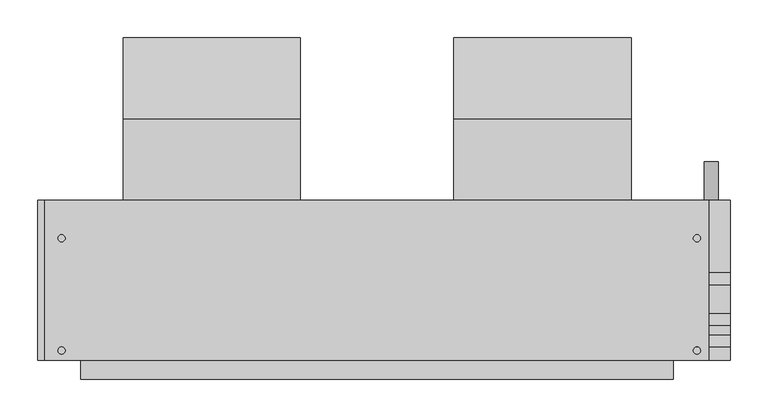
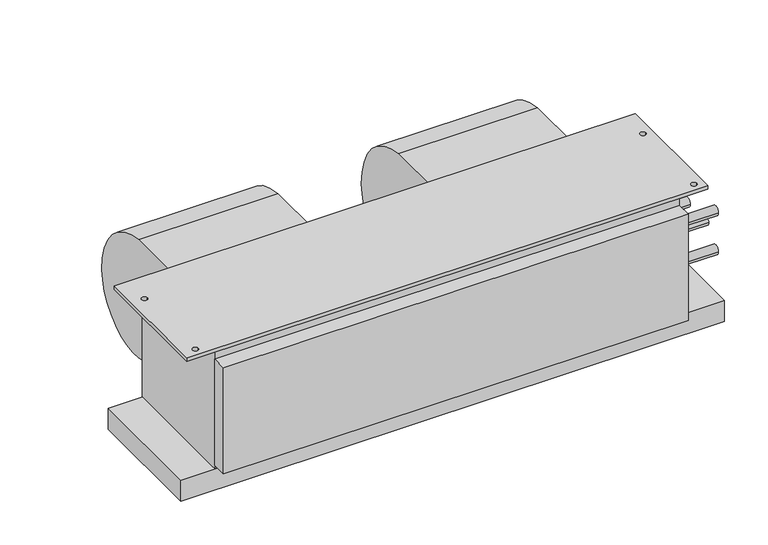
"""IFC4 building model written with IfcOpenShell, lengths in millimetres: proxy geometry, Concealed_Horizontal_Fan_Coil_Unit_-_42CAA_-_CARRIER_-_4-Pipe_RH_2022 : Size 06 - 277v/60Hz/1Ph - 4/1 Coil."""

from ifc_helpers import new_model, si_unit, point, frame, frame_2d, origin, place, context, project, spatial, polyline, circle_curve, trimmed, segment, composite_curve, outline, extrude, source, transform, mapped, element, save


def mechanical_equipment_5134b406(model_context):
    return source(origin(), model_context, "Body", "SweptSolid", [
        extrude(outline(composite_curve([segment(trimmed(circle_curve(frame_2d((-33.198831, -136.0299844)), 117.3559541), [point((-23.8125, -19.05))], [point((84.1375, -138.176))], False, "CARTESIAN"), True, "CONTINUOUS"), segment(trimmed(circle_curve(frame_2d((-11.5977337, -136.4250563)), 95.7512443), [point((84.1375, -138.176))], [point((-23.8125, -231.394))], False, "CARTESIAN"), True, "CONTINUOUS"), segment(trimmed(circle_curve(frame_2d((-11.6288131, -136.6666968)), 95.5076133), [point((-23.8125, -231.394))], [point((-107.1245, -138.176))], False, "CARTESIAN"), True, "CONTINUOUS"), segment(trimmed(circle_curve(frame_2d((-126.2059828, -138.4775816)), 19.0838659), [point((-107.1245, -138.176))], [point((-119.3963373, -120.65))], True, "CARTESIAN"), True, "CONTINUOUS"), segment(polyline([(-119.3963373, -120.65), (-131.7625, -120.65), (-131.7625, -19.05), (-23.8125, -19.05)]), True, "CONTINUOUS")], self_intersect=False)), frame((254.8255, 0.0, 0.0), z_axis=(1.0, 0.0, 0.0), x_axis=(0.0, 1.0, 0.0)), (0.0, 0.0, 1.0), 235.712),
        extrude(outline(composite_curve([segment(trimmed(circle_curve(frame_2d((-33.198831, -136.0299844)), 117.3559541), [point((-23.8125, -19.05))], [point((84.1375, -138.176))], False, "CARTESIAN"), True, "CONTINUOUS"), segment(trimmed(circle_curve(frame_2d((-11.5977337, -136.4250563)), 95.7512443), [point((84.1375, -138.176))], [point((-23.8125, -231.394))], False, "CARTESIAN"), True, "CONTINUOUS"), segment(trimmed(circle_curve(frame_2d((-11.6288131, -136.6666968)), 95.5076133), [point((-23.8125, -231.394))], [point((-107.1245, -138.176))], False, "CARTESIAN"), True, "CONTINUOUS"), segment(trimmed(circle_curve(frame_2d((-126.2059828, -138.4775816)), 19.0838659), [point((-107.1245, -138.176))], [point((-119.3963373, -120.65))], True, "CARTESIAN"), True, "CONTINUOUS"), segment(polyline([(-119.3963373, -120.65), (-131.7625, -120.65), (-131.7625, -19.05), (-23.8125, -19.05)]), True, "CONTINUOUS")], self_intersect=False)), frame((-184.912, 0.0, 0.0), z_axis=(1.0, 0.0, 0.0), x_axis=(0.0, 1.0, 0.0)), (0.0, 0.0, 1.0), 235.712),
        extrude(outline(polyline([(593.725, -131.7625), (593.725, -344.4875), (-288.925, -344.4875), (-288.925, -131.7625), (593.725, -131.7625)]), holes=[composite_curve([segment(trimmed(circle_curve(frame_2d((-266.7, -182.5625)), 4.7625), [point((-271.4625, -182.5625))], [point((-261.9375, -182.5625))], True, "CARTESIAN"), True, "CONTINUOUS"), segment(trimmed(circle_curve(frame_2d((-266.7, -182.5625)), 4.7625), [point((-261.9375, -182.5625))], [point((-271.4625, -182.5625))], True, "CARTESIAN"), True, "CONTINUOUS")], self_intersect=False), composite_curve([segment(trimmed(circle_curve(frame_2d((-266.7, -331.7875)), 4.7625), [point((-271.4625, -331.7875))], [point((-261.9375, -331.7875))], True, "CARTESIAN"), True, "CONTINUOUS"), segment(trimmed(circle_curve(frame_2d((-266.7, -331.7875)), 4.7625), [point((-261.9375, -331.7875))], [point((-271.4625, -331.7875))], True, "CARTESIAN"), True, "CONTINUOUS")], self_intersect=False), composite_curve([segment(trimmed(circle_curve(frame_2d((577.85, -182.5625)), 4.7625), [point((573.0875, -182.5625))], [point((582.6125, -182.5625))], True, "CARTESIAN"), True, "CONTINUOUS"), segment(trimmed(circle_curve(frame_2d((577.85, -182.5625)), 4.7625), [point((582.6125, -182.5625))], [point((573.0875, -182.5625))], True, "CARTESIAN"), True, "CONTINUOUS")], self_intersect=False), composite_curve([segment(trimmed(circle_curve(frame_2d((577.85, -331.7875)), 4.7625), [point((573.0875, -331.7875))], [point((582.6125, -331.7875))], True, "CARTESIAN"), True, "CONTINUOUS"), segment(trimmed(circle_curve(frame_2d((577.85, -331.7875)), 4.7625), [point((582.6125, -331.7875))], [point((573.0875, -331.7875))], True, "CARTESIAN"), True, "CONTINUOUS")], self_intersect=False)]), frame((0.0, 0.0, -6.35), z_axis=(0.0, 0.0, 1.0), x_axis=(1.0, 0.0, 0.0)), (0.0, 0.0, 1.0), 6.35),
        extrude(outline(composite_curve([segment(trimmed(circle_curve(frame_2d((-241.3, 596.9)), 9.525), [point((-241.3, 587.375))], [point((-241.3, 606.425))], False, "CARTESIAN"), True, "CONTINUOUS"), segment(trimmed(circle_curve(frame_2d((-241.3, 596.9)), 9.525), [point((-241.3, 606.425))], [point((-241.3, 587.375))], False, "CARTESIAN"), True, "CONTINUOUS")], self_intersect=False)), frame((0.0, -131.7625, 0.0), z_axis=(0.0, 1.0, 0.0), x_axis=(0.0, 0.0, 1.0)), (0.0, 0.0, 1.0), 50.8),
        extrude(outline(polyline([(546.1, -369.8875), (-241.3, -369.8875), (-241.3, -344.4875), (546.1, -344.4875), (546.1, -369.8875)])), frame((0.0, 0.0, -209.55), z_axis=(0.0, 0.0, 1.0), x_axis=(1.0, 0.0, 0.0)), (0.0, 0.0, 1.0), 190.5),
        extrude(outline(polyline([(622.3, -131.7625), (622.3, -344.4875), (-298.45, -344.4875), (-298.45, -131.7625), (622.3, -131.7625)])), frame((0.0, 0.0, -254.0), z_axis=(0.0, 0.0, 1.0), x_axis=(1.0, 0.0, 0.0)), (0.0, 0.0, 1.0), 38.1),
        extrude(outline(composite_curve([segment(trimmed(circle_curve(frame_2d((-236.5375, -104.775)), 7.9375), [point((-244.475, -104.775))], [point((-228.6, -104.775))], False, "CARTESIAN"), True, "CONTINUOUS"), segment(trimmed(circle_curve(frame_2d((-236.5375, -104.775)), 7.9375), [point((-228.6, -104.775))], [point((-244.475, -104.775))], False, "CARTESIAN"), True, "CONTINUOUS")], self_intersect=False)), frame((546.1, 0.0, 0.0), z_axis=(1.0, 0.0, 0.0), x_axis=(0.0, 1.0, 0.0)), (0.0, 0.0, 1.0), 76.2),
        extrude(outline(composite_curve([segment(trimmed(circle_curve(frame_2d((-290.5125, -104.775)), 7.9375), [point((-298.45, -104.775))], [point((-282.575, -104.775))], False, "CARTESIAN"), True, "CONTINUOUS"), segment(trimmed(circle_curve(frame_2d((-290.5125, -104.775)), 7.9375), [point((-282.575, -104.775))], [point((-298.45, -104.775))], False, "CARTESIAN"), True, "CONTINUOUS")], self_intersect=False)), frame((546.1, 0.0, 0.0), z_axis=(1.0, 0.0, 0.0), x_axis=(0.0, 1.0, 0.0)), (0.0, 0.0, 1.0), 76.2),
        extrude(outline(composite_curve([segment(trimmed(circle_curve(frame_2d((-319.0875, -69.85)), 7.9375), [point((-327.025, -69.85))], [point((-311.15, -69.85))], False, "CARTESIAN"), True, "CONTINUOUS"), segment(trimmed(circle_curve(frame_2d((-319.0875, -69.85)), 7.9375), [point((-311.15, -69.85))], [point((-327.025, -69.85))], False, "CARTESIAN"), True, "CONTINUOUS")], self_intersect=False)), frame((546.1, 0.0, 0.0), z_axis=(1.0, 0.0, 0.0), x_axis=(0.0, 1.0, 0.0)), (0.0, 0.0, 1.0), 76.2),
        extrude(outline(composite_curve([segment(trimmed(circle_curve(frame_2d((-319.0875, -139.7)), 7.9375), [point((-327.025, -139.7))], [point((-311.15, -139.7))], False, "CARTESIAN"), True, "CONTINUOUS"), segment(trimmed(circle_curve(frame_2d((-319.0875, -139.7)), 7.9375), [point((-311.15, -139.7))], [point((-327.025, -139.7))], False, "CARTESIAN"), True, "CONTINUOUS")], self_intersect=False)), frame((546.1, 0.0, 0.0), z_axis=(1.0, 0.0, 0.0), x_axis=(0.0, 1.0, 0.0)), (0.0, 0.0, 1.0), 76.2),
        extrude(outline(polyline([(546.1, -344.4875), (-241.3, -344.4875), (-241.3, -131.7625), (546.1, -131.7625), (546.1, -344.4875)])), frame((0.0, 0.0, -215.9), z_axis=(0.0, 0.0, 1.0), x_axis=(1.0, 0.0, 0.0)), (0.0, 0.0, 1.0), 209.55),
    ])


if __name__ == "__main__":
    model = new_model("IFC4")
    model_context = context("Model", 3, world=origin())
    ifc_project = project(units=[si_unit("LENGTHUNIT", "METRE", prefix="MILLI")], contexts=[model_context])
    site = spatial("IfcSite", under=ifc_project)
    building = spatial("IfcBuilding", under=site)
    placement = place(None, origin())
    mechanical_equipment_shape = mechanical_equipment_5134b406(model_context)
    element("IfcBuildingElementProxy", 1, Name="Concealed_Horizontal_Fan_Coil_Unit_-_42CAA_-_CARRIER_-_4-Pipe_RH_2022 : Size 06 - 277v/60Hz/1Ph - 4/1 Coil", ObjectType="Concealed_Horizontal_Fan_Coil_Unit_-_42CAA_-_CARRIER_-_4-Pipe_RH_2022 : Size 06 - 277v/60Hz/1Ph - 4/1 Coil", at=placement, inside=building, context=model_context, shape_type="MappedRepresentation", body=[
        mapped(mechanical_equipment_shape, transform((0.0, 0.0, 0.0), x_axis=(1.0, 0.0, 0.0), y_axis=(0.0, 1.0, 0.0), z_axis=(0.0, 0.0, 1.0))),
    ])
    save(model, "model.ifc")
